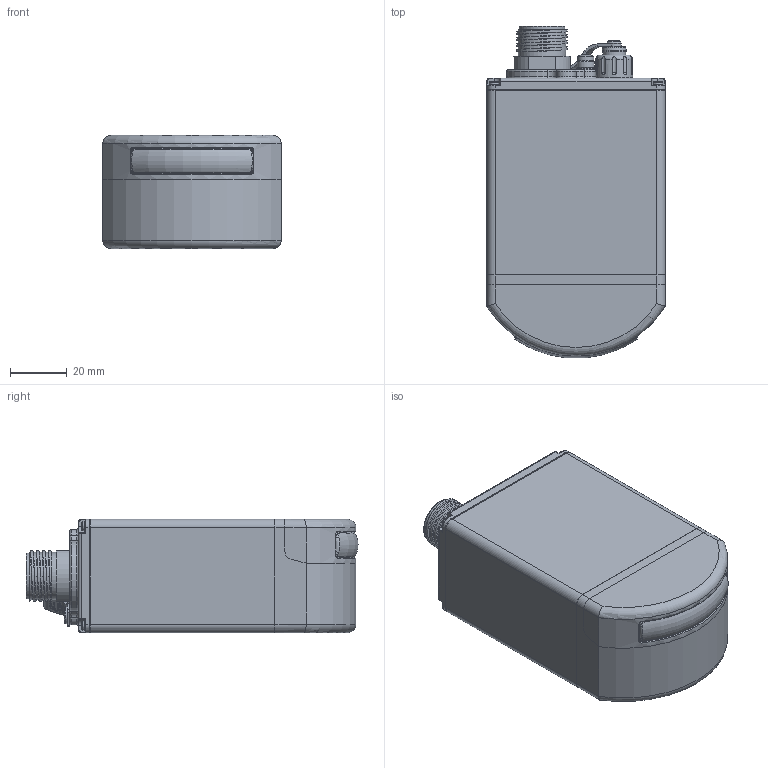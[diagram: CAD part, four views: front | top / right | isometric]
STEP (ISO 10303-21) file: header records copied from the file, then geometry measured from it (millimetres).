
FILE_DESCRIPTION (( 'STEP AP214' ), '1' );
FILE_NAME ('0729-CTF-00022-01.STEP', '2018-02-19T08:58:03', ( '' ), ( '' ), 'SwSTEP 2.0', 'SolidWorks 2015', '' );
FILE_SCHEMA (( 'AUTOMOTIVE_DESIGN' ));
Length unit declared in the file: millimetre
Products named in the file (2): 0729-CTF-00022-01
Bounding box: 63 x 117.16 x 40 mm (x, y, z)
Surface area: 31291.8 mm2 (no closed solid volume)
Topology: 0 solids, 23 shells, 492 faces, 1296 edges, 844 vertices
Faces by surface type: plane 184, cylinder 171, torus 75, bspline 39, cone 14, sphere 9
Full cylindrical faces by diameter (mm): 0.775 x1, 0.787 x10, 1.5 x1, 1.778 x10, 2.5 x1, 5.8 x1, 6 x2, 6.35 x1, 8 x1, 8.5 x1, 8.527 x11, 9.804 x1, 10.922 x1, 13 x1, 13.818 x1, 13.995 x2, 16.18 x1, 16.688 x4
Entity records: 22904 total; most frequent: CARTESIAN_POINT 7408, DIRECTION 2311, ORIENTED_EDGE 2103, EDGE_CURVE 1171, AXIS2_PLACEMENT_3D 881, VERTEX_POINT 800, EDGE_LOOP 596, VECTOR 549
